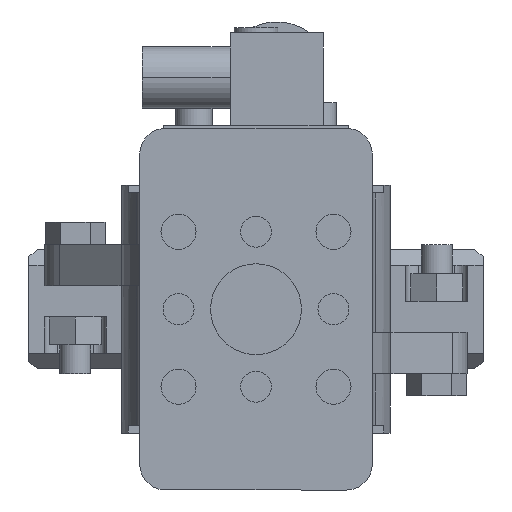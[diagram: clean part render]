
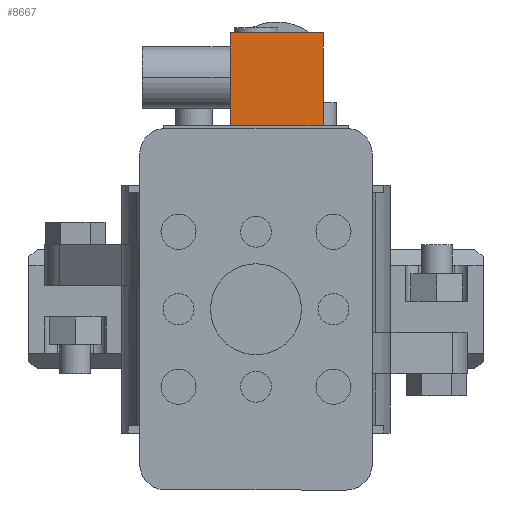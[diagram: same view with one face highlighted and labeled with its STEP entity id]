
A CAD part, front view. The second image highlights one B-rep face of the part: STEP entity #8667.
In plain terms, the highlighted planar face has unit normal (0, -1, 0) as drawn and (0, 1, 0) by its records, which use the part's own axes.
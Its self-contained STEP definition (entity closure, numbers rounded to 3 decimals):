
#330 = DIRECTION ( 'NONE',  ( 0., 0., -1. ) ) ;
#542 = EDGE_CURVE ( 'NONE', #6724, #7446, #17166, .T. ) ;
#1860 = VECTOR ( 'NONE', #7506, 1000. ) ;
#1863 = ORIENTED_EDGE ( 'NONE', *, *, #16890, .T. ) ;
#4092 = PLANE ( 'NONE',  #11146 ) ;
#4846 = DIRECTION ( 'NONE',  ( -1., 0., 0. ) ) ;
#5562 = ORIENTED_EDGE ( 'NONE', *, *, #16933, .T. ) ;
#5636 = CARTESIAN_POINT ( 'NONE',  ( -13., 23.5, 18. ) ) ;
#6724 = VERTEX_POINT ( 'NONE', #18043 ) ;
#7112 = LINE ( 'NONE', #18630, #15194 ) ;
#7446 = VERTEX_POINT ( 'NONE', #7758 ) ;
#7506 = DIRECTION ( 'NONE',  ( 0., 0., -1. ) ) ;
#7758 = CARTESIAN_POINT ( 'NONE',  ( -13., 23.5, 0. ) ) ;
#7774 = CARTESIAN_POINT ( 'NONE',  ( -13., 23.5, 18. ) ) ;
#8088 = VECTOR ( 'NONE', #4846, 1000. ) ;
#8147 = CARTESIAN_POINT ( 'NONE',  ( -13., 23.5, 18. ) ) ;
#8667 = ADVANCED_FACE ( 'NONE', ( #19588 ), #4092, .F. ) ;
#8742 = DIRECTION ( 'NONE',  ( 0., -1., 0. ) ) ;
#8980 = LINE ( 'NONE', #8147, #12565 ) ;
#9928 = ORIENTED_EDGE ( 'NONE', *, *, #18414, .F. ) ;
#10576 = VERTEX_POINT ( 'NONE', #18064 ) ;
#11146 = AXIS2_PLACEMENT_3D ( 'NONE', #5636, #8742, #19319 ) ;
#12136 = ORIENTED_EDGE ( 'NONE', *, *, #542, .F. ) ;
#12565 = VECTOR ( 'NONE', #18738, 1000. ) ;
#13999 = CARTESIAN_POINT ( 'NONE',  ( -13., 23.5, 0. ) ) ;
#15194 = VECTOR ( 'NONE', #330, 1000. ) ;
#15603 = CARTESIAN_POINT ( 'NONE',  ( 5., 23.5, 0. ) ) ;
#16890 = EDGE_CURVE ( 'NONE', #19561, #7446, #19690, .T. ) ;
#16933 = EDGE_CURVE ( 'NONE', #10576, #19561, #7112, .T. ) ;
#17166 = LINE ( 'NONE', #7774, #1860 ) ;
#18043 = CARTESIAN_POINT ( 'NONE',  ( -13., 23.5, 18. ) ) ;
#18064 = CARTESIAN_POINT ( 'NONE',  ( 5., 23.5, 18. ) ) ;
#18414 = EDGE_CURVE ( 'NONE', #10576, #6724, #8980, .T. ) ;
#18630 = CARTESIAN_POINT ( 'NONE',  ( 5., 23.5, 18. ) ) ;
#18665 = EDGE_LOOP ( 'NONE', ( #1863, #12136, #9928, #5562 ) ) ;
#18738 = DIRECTION ( 'NONE',  ( -1., 0., 0. ) ) ;
#19319 = DIRECTION ( 'NONE',  ( 1., 0., 0. ) ) ;
#19561 = VERTEX_POINT ( 'NONE', #15603 ) ;
#19588 = FACE_OUTER_BOUND ( 'NONE', #18665, .T. ) ;
#19690 = LINE ( 'NONE', #13999, #8088 ) ;
